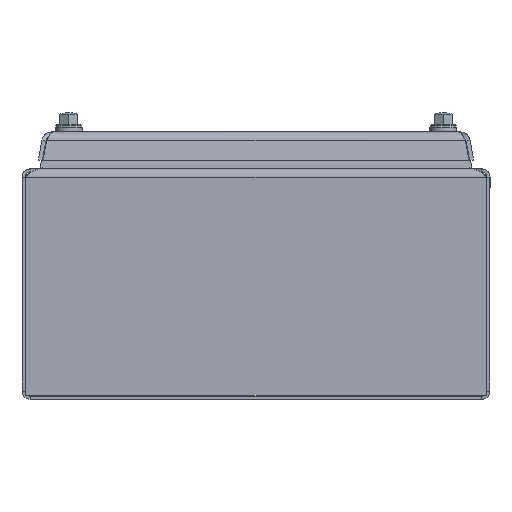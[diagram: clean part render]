
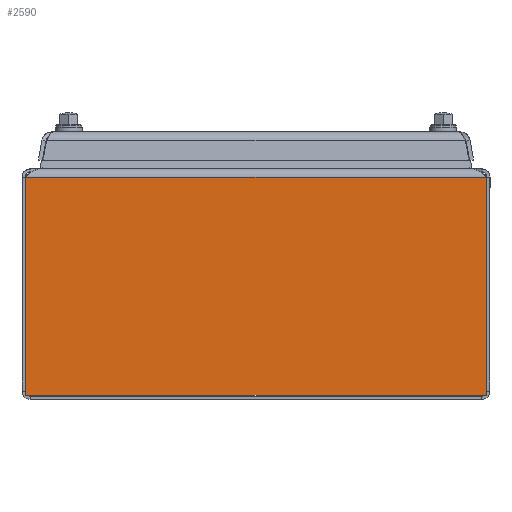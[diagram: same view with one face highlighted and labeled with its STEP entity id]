
A CAD part, front view. The second image highlights one B-rep face of the part: STEP entity #2590.
In plain terms, the highlighted planar face has unit normal (0, -1, 0).
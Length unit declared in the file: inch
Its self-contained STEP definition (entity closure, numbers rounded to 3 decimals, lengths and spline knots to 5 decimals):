
#156 = CARTESIAN_POINT ( 'NONE',  ( 3.9945, 0., 3.856 ) ) ;
#634 = ORIENTED_EDGE ( 'NONE', *, *, #6243, .F. ) ;
#756 = LINE ( 'NONE', #6809, #16312 ) ;
#1011 = CARTESIAN_POINT ( 'NONE',  ( -3.9945, 0., 4. ) ) ;
#1855 = EDGE_CURVE ( 'NONE', #12829, #5702, #18542, .T. ) ;
#2590 = ADVANCED_FACE ( 'NONE', ( #4938 ), #4422, .F. ) ;
#2831 = CARTESIAN_POINT ( 'NONE',  ( 3.9945, 0., 3.856 ) ) ;
#2872 = CARTESIAN_POINT ( 'NONE',  ( -3.9945, 0., 0.068 ) ) ;
#3333 = CARTESIAN_POINT ( 'NONE',  ( 3.9945, 0., 0.068 ) ) ;
#3593 = DIRECTION ( 'NONE',  ( 0., 0., 1. ) ) ;
#3686 = DIRECTION ( 'NONE',  ( 0., 1., 0. ) ) ;
#4237 = ORIENTED_EDGE ( 'NONE', *, *, #7074, .F. ) ;
#4422 = PLANE ( 'NONE',  #5714 ) ;
#4933 = DIRECTION ( 'NONE',  ( 0., 0., -1. ) ) ;
#4938 = FACE_OUTER_BOUND ( 'NONE', #17215, .T. ) ;
#5066 = VECTOR ( 'NONE', #5910, 39.37008 ) ;
#5347 = VERTEX_POINT ( 'NONE', #2872 ) ;
#5702 = VERTEX_POINT ( 'NONE', #8462 ) ;
#5714 = AXIS2_PLACEMENT_3D ( 'NONE', #1011, #3686, #3593 ) ;
#5910 = DIRECTION ( 'NONE',  ( 0., 0., 1. ) ) ;
#6243 = EDGE_CURVE ( 'NONE', #12829, #19065, #8132, .T. ) ;
#6585 = VECTOR ( 'NONE', #9223, 39.37008 ) ;
#6754 = EDGE_CURVE ( 'NONE', #5347, #5702, #9074, .T. ) ;
#6809 = CARTESIAN_POINT ( 'NONE',  ( -3.9945, 0., 0.068 ) ) ;
#7074 = EDGE_CURVE ( 'NONE', #19065, #5347, #756, .T. ) ;
#7086 = CARTESIAN_POINT ( 'NONE',  ( 3.9945, 0., 0.068 ) ) ;
#7346 = CARTESIAN_POINT ( 'NONE',  ( -3.9945, 0., 0.068 ) ) ;
#8132 = LINE ( 'NONE', #3333, #15152 ) ;
#8462 = CARTESIAN_POINT ( 'NONE',  ( -3.9945, 0., 3.856 ) ) ;
#9074 = LINE ( 'NONE', #7346, #5066 ) ;
#9223 = DIRECTION ( 'NONE',  ( -1., 0., 0. ) ) ;
#12829 = VERTEX_POINT ( 'NONE', #2831 ) ;
#15152 = VECTOR ( 'NONE', #4933, 39.37008 ) ;
#15762 = DIRECTION ( 'NONE',  ( -1., 0., 0. ) ) ;
#16312 = VECTOR ( 'NONE', #15762, 39.37008 ) ;
#17215 = EDGE_LOOP ( 'NONE', ( #18921, #18850, #4237, #634 ) ) ;
#18542 = LINE ( 'NONE', #156, #6585 ) ;
#18850 = ORIENTED_EDGE ( 'NONE', *, *, #6754, .F. ) ;
#18921 = ORIENTED_EDGE ( 'NONE', *, *, #1855, .T. ) ;
#19065 = VERTEX_POINT ( 'NONE', #7086 ) ;
